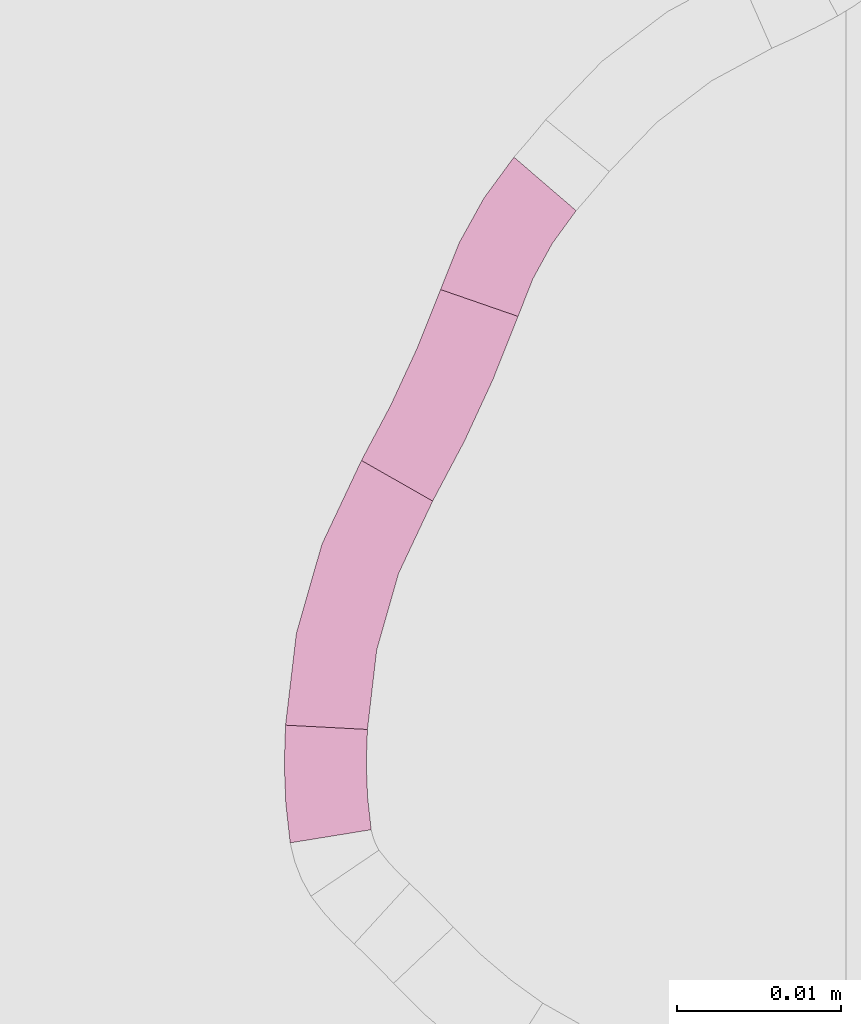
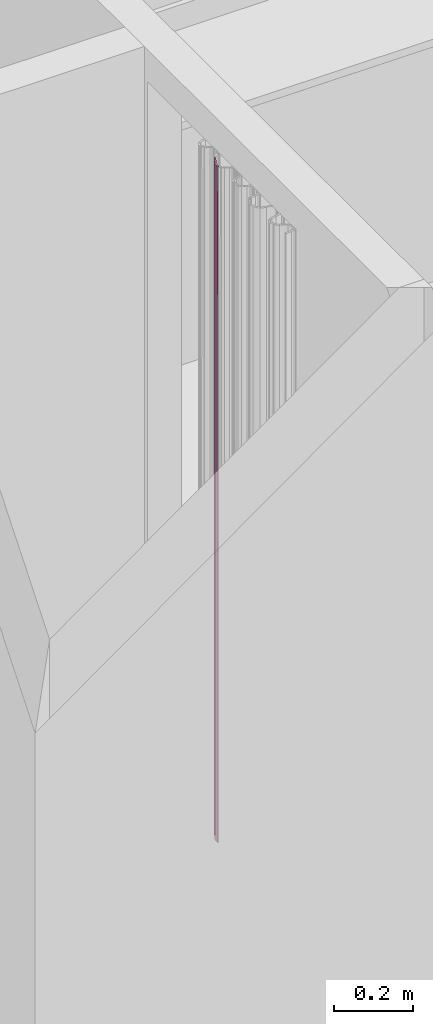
# One storey, part 325 of 418: 4 furnishings.
"""IFC2X3 building model written with IfcOpenShell, lengths in millimetres."""

from ifc_helpers import new_model, entity, si_unit, converted_unit, derived_unit, money_unit, point, direction, frame, frame_2d, origin_with_axes, place, context, subcontext, project, spatial, polyline, circle_curve, parameter, trimmed, segment, composite_curve, outline, extrude, material, type_object, element, save


model = new_model("IFC2X3")

# Units and contexts
model_context = context("Model", 3, precision=0.01, world=origin_with_axes(), true_north=direction((0.0, 1.0)))
body_context = subcontext(model_context, "Body", "Model", "MODEL_VIEW")
ifc_project = project(units=[si_unit("LENGTHUNIT", "METRE", prefix="MILLI"), si_unit("AREAUNIT", "SQUARE_METRE"), si_unit("VOLUMEUNIT", "CUBIC_METRE"), converted_unit("PLANEANGLEUNIT", "DEGREE", entity("IfcPlaneAngleMeasure", 0.0174532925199), si_unit("PLANEANGLEUNIT", "RADIAN"), dimensions=[0, 0, 0, 0, 0, 0, 0]), si_unit("SOLIDANGLEUNIT", "STERADIAN"), money_unit("EUR"), converted_unit("TIMEUNIT", "Year", entity("IfcTimeMeasure", 31556926.0), si_unit("TIMEUNIT", "SECOND"), dimensions=[0, 0, 1, 0, 0, 0, 0]), si_unit("MASSUNIT", "GRAM", prefix="KILO"), si_unit("THERMODYNAMICTEMPERATUREUNIT", "DEGREE_CELSIUS"), si_unit("LUMINOUSINTENSITYUNIT", "LUMEN"), si_unit("ENERGYUNIT", "JOULE", prefix="MEGA"), derived_unit("THERMALCONDUCTANCEUNIT", [(si_unit("POWERUNIT", "WATT"), 1), (si_unit("LENGTHUNIT", "METRE"), -1), (si_unit("THERMODYNAMICTEMPERATUREUNIT", "KELVIN"), -1)]), derived_unit("SPECIFICHEATCAPACITYUNIT", [(si_unit("ENERGYUNIT", "JOULE"), 1), (si_unit("MASSUNIT", "GRAM", prefix="KILO"), -1), (si_unit("THERMODYNAMICTEMPERATUREUNIT", "KELVIN"), -1)]), derived_unit("MASSDENSITYUNIT", [(si_unit("MASSUNIT", "GRAM", prefix="KILO"), 1), (si_unit("VOLUMEUNIT", "CUBIC_METRE"), -1)])], contexts=[model_context])

# Site, building, storey
site_placement = place(None, origin_with_axes())
site = spatial("IfcSite", under=ifc_project, at=site_placement, Name="Paldiski mnt 245/1, Tallinn, Harjumaa", CompositionType="COMPLEX")
building_placement = place(site_placement, origin_with_axes())
building = spatial("IfcBuilding", under=site, at=building_placement, Name="RKAS Hoone üldnimetus (kasutust iseloomustav) -> IFC Project Manager -> SOLIBRI", CompositionType="ELEMENT")
storey_placement = place(building_placement, origin_with_axes())
storey = spatial("IfcBuildingStorey", under=building, at=storey_placement, Name="Esimene korrus", CompositionType="ELEMENT", Elevation=0.0)

# Furnishings
ifc_material = material(Name="KON-00_GENEERILINE - KONSTRUKTSIOON")
furniture_type = type_object("IfcFurnitureType", Name="KON-00_GENEERILINE - KONSTRUKTSIOON 5", AssemblyPlace="NOTDEFINED")
furnishing_1_placement = place(storey_placement, frame((-44056.5592148, -1984.63892486, 0.0), z_axis=(0.0, 0.0, 1.0), x_axis=(-0.0671811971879, -0.99774079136, 0.0)))
element("IfcFurnishingElement", 1, at=furnishing_1_placement, inside=storey, type_object=furniture_type, material=ifc_material, Name="SS-88", context=body_context, shape_type="SweptSolid", body=[
    extrude(outline(composite_curve([segment(trimmed(circle_curve(frame_2d((0.0, 33.6441373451), x_axis=(0.0, -1.0)), 33.6441373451), [point((0.0, 0.0)), parameter(0.0)], [point((7.13721759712, 0.765753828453)), parameter(12.2477046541)], True, "CARTESIAN"), True, "CONTINUOUS"), segment(polyline([(7.13721759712, 0.765753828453), (6.00683335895, 5.63691404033)]), True, "CONTINUOUS"), segment(trimmed(circle_curve(frame_2d((0.0, 33.6441373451), x_axis=(-0.00262259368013, -0.999996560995)), 28.6441373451), [point((6.00683335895, 5.63691404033)), parameter(12.2553585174)], [point((-0.0751219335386, 5.00009850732)), parameter(0.0)], False, "CARTESIAN"), True, "CONTINUOUS"), segment(polyline([(-0.0751219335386, 5.00009850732), (0.0, 0.0)]), True, "CONTINUOUS")], self_intersect=False)), origin_with_axes(), (0.0, 0.0, 1.0), 2100.0),
])
furnishing_2_placement = place(storey_placement, frame((-44051.9333372, -1968.50631355, 0.0), z_axis=(0.0, 0.0, 1.0), x_axis=(-0.498061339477, -0.867141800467, 0.0)))
element("IfcFurnishingElement", 2, at=furnishing_2_placement, inside=storey, type_object=furniture_type, material=ifc_material, Name="SS-87", context=body_context, shape_type="SweptSolid", body=[
    extrude(outline(composite_curve([segment(trimmed(circle_curve(frame_2d((0.0, 34.9997788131), x_axis=(0.0, -1.0)), 34.9997788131), [point((0.0, 0.0)), parameter(0.0)], [point((16.2932324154, 4.02373816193)), parameter(27.7441311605)], True, "CARTESIAN"), True, "CONTINUOUS"), segment(polyline([(16.2932324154, 4.02373816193), (14.0322789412, 8.4840876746)]), True, "CONTINUOUS"), segment(trimmed(circle_curve(frame_2d((0.0, 34.9997788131), x_axis=(-0.00056081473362, -0.999999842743)), 29.9997788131), [point((14.0322789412, 8.4840876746)), parameter(27.9202212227)], [point((-0.0168243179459, 5.00000471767)), parameter(0.0)], False, "CARTESIAN"), True, "CONTINUOUS"), segment(polyline([(-0.0168243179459, 5.00000471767), (0.0, 0.0)]), True, "CONTINUOUS")], self_intersect=False)), origin_with_axes(), (0.0, 0.0, 1.0), 2100.0),
])
furnishing_3_placement = place(storey_placement, frame((-44051.9333372, -1968.50631355, 0.0), z_axis=(0.0, 0.0, 1.0), x_axis=(0.491870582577, 0.870668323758, 0.0)))
element("IfcFurnishingElement", 3, at=furnishing_3_placement, inside=storey, type_object=furniture_type, material=ifc_material, Name="SS-86", context=body_context, shape_type="SweptSolid", body=[
    extrude(outline(composite_curve([segment(trimmed(circle_curve(frame_2d((0.0, 71.2014971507), x_axis=(-0.000246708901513, -0.999999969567)), 76.2014971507), [point((-0.0187995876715, -4.99999768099)), parameter(0.0)], [point((12.3402624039, -3.9941549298)), parameter(9.33380036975)], True, "CARTESIAN"), True, "CONTINUOUS"), segment(polyline([(12.3402624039, -3.9941549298), (11.4411599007, 0.925234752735)]), True, "CONTINUOUS"), segment(trimmed(circle_curve(frame_2d((0.0, 71.2014971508), x_axis=(0.0, -1.0)), 71.2014971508), [point((11.4411599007, 0.925234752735)), parameter(9.24677841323)], [point((0.0, 0.0)), parameter(0.0)], False, "CARTESIAN"), True, "CONTINUOUS"), segment(polyline([(0.0, 0.0), (-0.0187995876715, -4.99999768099)]), True, "CONTINUOUS")], self_intersect=False)), origin_with_axes(), (0.0, 0.0, 1.0), 2100.0),
])
furnishing_4_placement = place(storey_placement, frame((-44042.6371917, -1950.02022498, 0.0), z_axis=(0.0, 0.0, 1.0), x_axis=(-0.640966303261, -0.76756901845, 0.0)))
element("IfcFurnishingElement", 4, at=furnishing_4_placement, inside=storey, type_object=furniture_type, material=ifc_material, Name="SS-85", context=body_context, shape_type="SweptSolid", body=[
    extrude(outline(composite_curve([segment(trimmed(circle_curve(frame_2d((0.0, 24.4911736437), x_axis=(0.0, -1.0)), 24.4911736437), [point((0.0, 0.0)), parameter(0.0)], [point((9.06170502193, 1.73808399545)), parameter(21.7155436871)], True, "CARTESIAN"), True, "CONTINUOUS"), segment(polyline([(9.06170502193, 1.73808399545), (7.28930427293, 6.41434059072)]), True, "CONTINUOUS"), segment(trimmed(circle_curve(frame_2d((0.0, 24.4911736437), x_axis=(0.00383247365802, -0.999992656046)), 19.4911736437), [point((7.28930427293, 6.41434059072)), parameter(21.7416841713)], [point((0.074699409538, 5.00014314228)), parameter(0.0)], False, "CARTESIAN"), True, "CONTINUOUS"), segment(polyline([(0.074699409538, 5.00014314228), (0.0, 0.0)]), True, "CONTINUOUS")], self_intersect=False)), origin_with_axes(), (0.0, 0.0, 1.0), 2100.0),
])

save(model, "model.ifc")
